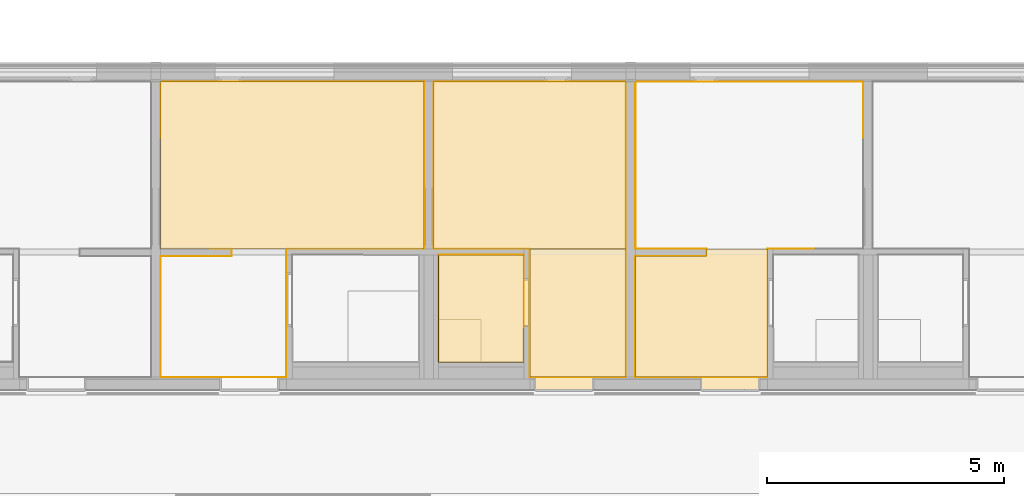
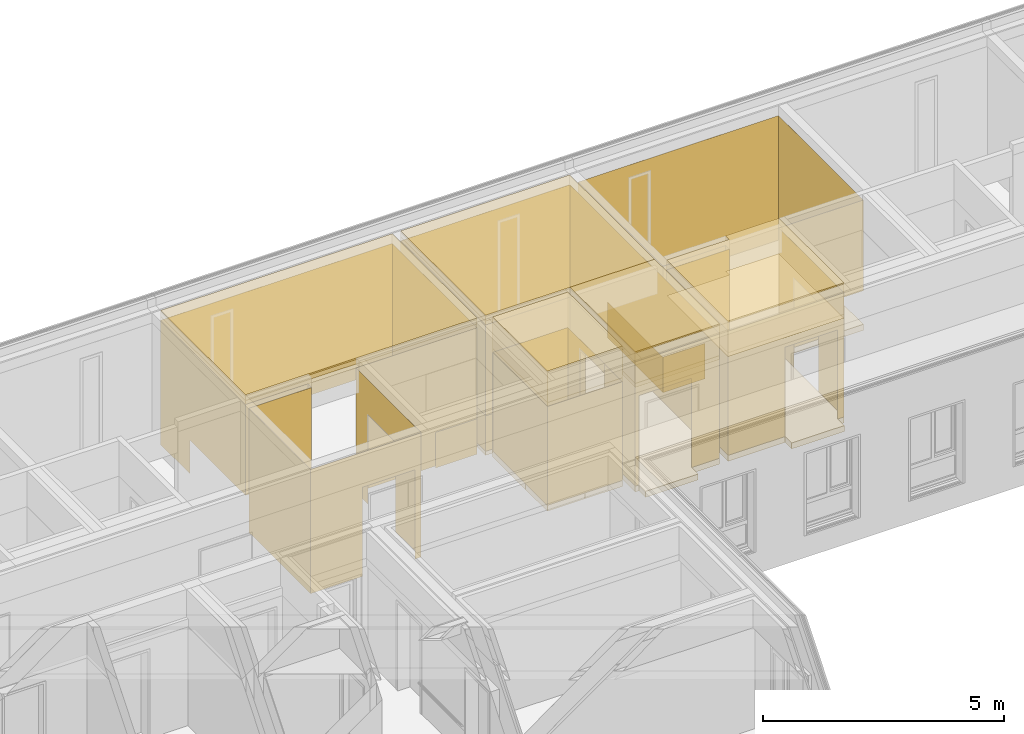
# One storey, part 177 of 222: 31 coverings.
"""IFC4 building model written with IfcOpenShell, lengths in metres."""

from ifc_helpers import new_model, entity, si_unit, converted_unit, derived_unit, frame, frame_2d, origin, origin_with_axes, place, context, subcontext, project, spatial, polyline, rectangle, outline, extrude, material, layer, layer_set, layer_usage, element, save


model = new_model("IFC4")

# Units and contexts
model_context = context("Model", 3, precision=1e-05, world=origin())
body_context = subcontext(model_context, "Body", "Model", "MODEL_VIEW")
ifc_project = project(units=[si_unit("LENGTHUNIT", "METRE"), si_unit("AREAUNIT", "SQUARE_METRE"), si_unit("VOLUMEUNIT", "CUBIC_METRE"), si_unit("MASSUNIT", "GRAM", prefix="KILO"), converted_unit("PLANEANGLEUNIT", "DEGREE", entity("IfcPlaneAngleMeasure", 0.0174532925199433), si_unit("PLANEANGLEUNIT", "RADIAN"), dimensions=[0, 0, 0, 0, 0, 0, 0]), derived_unit("THERMALTRANSMITTANCEUNIT", [(si_unit("POWERUNIT", "WATT"), 1), (si_unit("THERMODYNAMICTEMPERATUREUNIT", "KELVIN"), -1), (si_unit("LENGTHUNIT", "METRE"), -2)]), derived_unit("VOLUMETRICFLOWRATEUNIT", [(si_unit("LENGTHUNIT", "METRE"), 3), (converted_unit("TIMEUNIT", "hour", entity("IfcTimeMeasure", 3600.0), si_unit("TIMEUNIT", "SECOND"), dimensions=[0, 0, 1, 0, 0, 0, 0]), -1), (si_unit("LENGTHUNIT", "METRE"), -1)])], contexts=[model_context])

# Site, building, storey, space
site_placement = place(None, origin())
site = spatial("IfcSite", under=ifc_project, at=site_placement, Name="Psychiatrie Neubau Wunstorf", CompositionType="ELEMENT")
building_placement = place(site_placement, origin())
building = spatial("IfcBuilding", under=site, at=building_placement, Name="Neubau H2 Stationsgebäude", CompositionType="ELEMENT")
storey_placement = place(building_placement, frame((0.0, 0.0, 3.6)))
storey = spatial("IfcBuildingStorey", under=building, at=storey_placement, Name="H2 Ebene +1", CompositionType="ELEMENT", Elevation=3.6)
space_1_placement = place(storey_placement, frame((20.1, 24.3895, 0.0)))
space_1 = spatial("IfcSpace", under=storey, at=space_1_placement, Name="WUN-H2-E01-045", CompositionType="ELEMENT")

# Coverings
ifc_material_1 = material(Name="84")
ifc_layer_1 = layer(ifc_material_1, 0.001)
ifc_layer_set_1 = layer_set([ifc_layer_1])
ifc_layer_usage_1 = layer_usage(ifc_layer_set_1, "AXIS3", "POSITIVE", 0.0)
covering_1_placement = place(space_1_placement, frame((0.0, 2.70000000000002, 0.1)))
element("IfcCovering", 1, at=covering_1_placement, inside=space_1, material=ifc_layer_usage_1, Name="Acrovyn", PredefinedType="CLADDING", context=body_context, shape_type="SweptSolid", body=[
    extrude(rectangle(XDim=0.9, YDim=1.0, at=frame_2d((-0.5, -0.45), x_axis=(0.0, -1.0))), frame((1.0, 0.0, 0.0), z_axis=(0.0, 1.0, 0.0), x_axis=(1.0, 0.0, 0.0)), (0.0, 0.0, 1.0), 0.001),
    extrude(rectangle(XDim=0.9, YDim=2.29650366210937, at=frame_2d((-1.14825183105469, -0.45), x_axis=(0.0, -1.0))), frame((0.0, 0.0, 0.0), z_axis=(1.0, 9.50482823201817e-15, 0.0), x_axis=(9.50482823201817e-15, -1.0, 0.0)), (0.0, 0.0, 1.0), 0.001),
])
ifc_material_2 = material()
ifc_layer_2 = layer(ifc_material_2, 0.036)
ifc_layer_set_2 = layer_set([ifc_layer_2])
ifc_layer_usage_2 = layer_usage(ifc_layer_set_2, "AXIS3", "POSITIVE", 0.0)
covering_2_placement = place(space_1_placement, frame((0.0, 0.0, 3.55)))
element("IfcCovering", 2, at=covering_2_placement, inside=space_1, material=ifc_layer_usage_2, Name="Gipsfaserplatten 2-lagig (BSK)", PredefinedType="CEILING", context=body_context, shape_type="SweptSolid", body=[
    extrude(outline(polyline([(0.0, 0.150000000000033), (1.50000000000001, 0.150000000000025), (1.50000000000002, 0.0), (2.77500000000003, 0.0), (2.77500000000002, 2.70000000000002), (0.0, 2.70000000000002), (0.0, 0.150000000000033)])), frame((0.0, 2.70000000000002, 0.0), z_axis=(0.0, 0.0, -1.0), x_axis=(1.0, 0.0, 0.0)), (0.0, 0.0, 1.0), 0.036),
])
ifc_material_3 = material(Name="Installationshöhe")
ifc_layer_3 = layer(ifc_material_3, 0.764)
ifc_layer_set_3 = layer_set([ifc_layer_3])
ifc_layer_usage_3 = layer_usage(ifc_layer_set_3, "AXIS3", "POSITIVE", 0.0)
covering_3_placement = place(space_1_placement, frame((0.0, 0.0, 3.514)))
element("IfcCovering", 3, at=covering_3_placement, inside=space_1, material=ifc_layer_usage_3, Name="Gipsfaserplatten 2-lagig (BSK)", PredefinedType="CEILING", context=body_context, shape_type="SweptSolid", body=[
    extrude(outline(polyline([(0.0, 0.150000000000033), (1.50000000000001, 0.150000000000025), (1.50000000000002, 0.0), (2.77500000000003, 0.0), (2.77500000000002, 2.70000000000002), (0.0, 2.70000000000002), (0.0, 0.150000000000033)])), frame((0.0, 2.70000000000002, 0.0), z_axis=(0.0, 0.0, -1.0), x_axis=(1.0, 0.0, 0.0)), (0.0, 0.0, 1.0), 0.764),
])
ifc_material_4 = material(Name="A1")
ifc_layer_4 = layer(ifc_material_4, 0.1)
ifc_layer_set_4 = layer_set([ifc_layer_4])
ifc_layer_usage_4 = layer_usage(ifc_layer_set_4, "AXIS3", "POSITIVE", 0.0)
covering_4_placement = place(space_1_placement, frame((0.0, 0.0, 2.75)))
element("IfcCovering", 4, at=covering_4_placement, inside=space_1, material=ifc_layer_usage_4, Name="Gipsfaserplatten 2-lagig (BSK)", PredefinedType="CEILING", context=body_context, shape_type="SweptSolid", body=[
    extrude(outline(polyline([(0.0, 0.150000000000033), (1.50000000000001, 0.150000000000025), (1.50000000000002, 0.0), (2.77500000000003, 0.0), (2.77500000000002, 2.70000000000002), (0.0, 2.70000000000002), (0.0, 0.150000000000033)])), frame((0.0, 2.70000000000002, 0.0), z_axis=(0.0, 0.0, -1.0), x_axis=(1.0, 0.0, 0.0)), (0.0, 0.0, 1.0), 0.1),
])
ifc_material_5 = material(Name="D1")
ifc_layer_5 = layer(ifc_material_5, 0.001)
ifc_layer_set_5 = layer_set([ifc_layer_5])
ifc_layer_usage_5 = layer_usage(ifc_layer_set_5, "AXIS3", "POSITIVE", 0.0)
covering_5_placement = place(space_1_placement, frame((0.0, 0.0, 2.65)))
element("IfcCovering", 5, at=covering_5_placement, inside=space_1, material=ifc_layer_usage_5, Name="Gipsfaserplatten 2-lagig (BSK)", PredefinedType="CEILING", context=body_context, shape_type="SweptSolid", body=[
    extrude(outline(polyline([(0.0, 0.150000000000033), (1.50000000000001, 0.150000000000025), (1.50000000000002, 0.0), (2.77500000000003, 0.0), (2.77500000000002, 2.70000000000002), (0.0, 2.70000000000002), (0.0, 0.150000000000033)])), frame((0.0, 2.70000000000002, 0.0), z_axis=(0.0, 0.0, -1.0), x_axis=(1.0, 0.0, 0.0)), (0.0, 0.0, 1.0), 0.001),
])
ifc_material_6 = material(Name="Ku1")
ifc_layer_6 = layer(ifc_material_6, 0.15)
ifc_layer_set_6 = layer_set([ifc_layer_6])
ifc_layer_usage_6 = layer_usage(ifc_layer_set_6, "AXIS3", "POSITIVE", 0.0)
covering_6_placement = place(space_1_placement, frame((0.0, -0.271999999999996, 0.0)))
element("IfcCovering", 6, at=covering_6_placement, inside=space_1, material=ifc_layer_usage_6, Name="PVC Bahnenware Holzoptik", PredefinedType="FLOORING", context=body_context, shape_type="SweptSolid", body=[
    extrude(rectangle(XDim=0.271999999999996, YDim=1.26, at=frame_2d((0.63, -0.135999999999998), x_axis=(0.0, -1.0))), frame((1.36500000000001, 0.272, 0.0), z_axis=(0.0, 0.0, 1.0), x_axis=(1.0, 0.0, 0.0)), (0.0, 0.0, 1.0), 0.15),
    extrude(outline(polyline([(1.50000000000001, 2.55), (0.0, 2.54999999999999), (0.0, 0.0), (2.77500000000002, 0.0), (2.77500000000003, 2.70000000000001), (4.80000000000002, 2.70000000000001), (4.8, 6.22100366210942), (0.0, 6.22100366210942), (0.0, 2.70000000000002), (1.50000000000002, 2.70000000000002), (1.50000000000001, 2.55)])), frame((0.0, 0.271999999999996, 0.0), z_axis=(0.0, 0.0, 1.0), x_axis=(1.0, 0.0, 0.0)), (0.0, 0.0, 1.0), 0.15),
])
ifc_material_7 = material(Name="49")
ifc_layer_7 = layer(ifc_material_7, 0.001)
ifc_layer_set_7 = layer_set([ifc_layer_7])
ifc_layer_usage_7 = layer_usage(ifc_layer_set_7, "AXIS3", "POSITIVE", 0.0)
covering_7_placement = place(space_1_placement, frame((0.0, 0.0, 0.15)))
element("IfcCovering", 7, at=covering_7_placement, inside=space_1, material=ifc_layer_usage_7, PredefinedType="CLADDING", context=body_context, shape_type="SweptSolid", body=[
    extrude(outline(polyline([(1.0, 3.15), (1.5, 3.15), (1.5, 0.0), (0.0, 0.0), (0.0, 2.3), (1.0, 2.3), (1.0, 3.15)])), frame((0.0, 2.70000000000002, 3.15), z_axis=(8.22696452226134e-16, 1.0, 3.77383693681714e-16), x_axis=(1.0, -8.22696452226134e-16, 0.0)), (0.0, 0.0, 1.0), 0.001),
    extrude(rectangle(XDim=0.150000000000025, YDim=3.15, at=frame_2d((0.0750000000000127, -1.575), x_axis=(1.0, 0.0))), frame((1.5, 2.70000000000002, 0.0), z_axis=(1.0, -9.70127681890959e-14, 0.0), x_axis=(-9.70127681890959e-14, -1.0, 0.0)), (0.0, 0.0, 1.0), 0.001),
    extrude(rectangle(XDim=1.50000000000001, YDim=3.15, at=frame_2d((0.750000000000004, -1.575), x_axis=(1.0, 0.0))), frame((1.49999999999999, 2.55, 0.0), z_axis=(4.85063840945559e-15, -1.0, 0.0), x_axis=(-1.0, -4.85063840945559e-15, 0.0)), (0.0, 0.0, 1.0), 0.001),
    extrude(rectangle(XDim=2.54999999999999, YDim=3.15, at=frame_2d((1.27499999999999, -1.575), x_axis=(1.0, 0.0))), frame((0.0, 2.54999999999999, 0.0), z_axis=(1.0, 7.13329177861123e-15, 0.0), x_axis=(7.13329177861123e-15, -1.0, 0.0)), (0.0, 0.0, 1.0), 0.001),
    extrude(outline(polyline([(0.0, 3.15), (1.36499999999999, 3.15), (1.365, 0.89), (2.625, 0.89), (2.625, 3.15), (2.775, 3.15), (2.775, 0.0), (0.0, 0.0), (0.0, 3.15)])), frame((0.0, 0.0, 3.15), z_axis=(8.18892110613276e-17, 1.0, 3.71261760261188e-16), x_axis=(1.0, -8.18892110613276e-17, 0.0)), (0.0, 0.0, 1.0), 0.001),
    extrude(outline(polyline([(0.0, 3.15), (1.06150366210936, 3.15), (1.06150366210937, 0.89), (2.07150366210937, 0.89), (2.07150366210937, 3.15), (2.70000000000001, 3.15), (2.70000000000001, 0.0), (0.0, 0.0), (0.0, 3.15)])), frame((2.775, 0.0, 3.15), z_axis=(-1.0, 1.13040367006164e-15, 4.31793671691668e-16), x_axis=(1.13040367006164e-15, 1.0, 0.0)), (0.0, 0.0, 1.0), 0.001),
    extrude(outline(polyline([(0.0, 3.15), (1.025, 3.15), (1.025, 2.3), (2.025, 2.3), (2.025, 0.0), (0.0, 0.0), (0.0, 3.15)])), frame((2.775, 2.7, 3.15), z_axis=(-1.97403326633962e-16, 1.0, -3.29005544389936e-16), x_axis=(1.0, 1.97403326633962e-16, 0.0)), (0.0, 0.0, 1.0), 0.001),
    extrude(outline(polyline([(2.29650366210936, 3.15), (3.52100366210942, 3.15), (3.52100366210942, 0.0), (0.0, 0.0), (0.0, 2.3), (2.29650366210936, 2.3), (2.29650366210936, 3.15)])), frame((4.8, 2.7, 3.15), z_axis=(-1.0, -5.80782572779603e-15, 7.37005637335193e-16), x_axis=(-5.80782572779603e-15, 1.0, 0.0)), (0.0, 0.0, 1.0), 0.001),
    extrude(rectangle(XDim=4.8, YDim=3.15, at=frame_2d((2.4, -1.575), x_axis=(1.0, 0.0))), frame((4.79999999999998, 6.22100366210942, 0.0), z_axis=(0.0, -1.0, 0.0), x_axis=(-1.0, 0.0, 0.0)), (0.0, 0.0, 1.0), 0.001),
    extrude(outline(polyline([(0.0, 3.15), (1.22450000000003, 3.15), (1.22450000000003, 2.3), (3.5210036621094, 2.3), (3.5210036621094, 0.0), (0.0, 0.0), (0.0, 3.15)])), frame((0.0, 6.22100366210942, 3.15), z_axis=(1.0, 6.67145487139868e-15, -6.68171912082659e-16), x_axis=(6.67145487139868e-15, -1.0, 0.0)), (0.0, 0.0, 1.0), 0.001),
])

# Space
space_2_placement = place(storey_placement, frame((15.85, 24.3895, 0.0)))
space_2 = spatial("IfcSpace", under=storey, at=space_2_placement, Name="WUN-H2-E01-044", CompositionType="ELEMENT")

# Coverings
ifc_material_8 = material(Name="84")
ifc_layer_8 = layer(ifc_material_8, 0.001)
ifc_layer_set_8 = layer_set([ifc_layer_8])
ifc_layer_usage_8 = layer_usage(ifc_layer_set_8, "AXIS3", "POSITIVE", 0.0)
covering_8_placement = place(space_2_placement, frame((0.0, 2.70000000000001, 0.1)))
element("IfcCovering", 8, at=covering_8_placement, inside=space_2, material=ifc_layer_usage_8, Name="Acrovyn", PredefinedType="CLADDING", context=body_context, shape_type="SweptSolid", body=[
    extrude(rectangle(XDim=0.9, YDim=1.0, at=frame_2d((-0.5, -0.45), x_axis=(0.0, -1.0))), frame((1.0, 0.0, 0.0), z_axis=(0.0, 1.0, 0.0), x_axis=(1.0, 0.0, 0.0)), (0.0, 0.0, 1.0), 0.001),
    extrude(rectangle(XDim=0.9, YDim=2.29650366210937, at=frame_2d((-1.14825183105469, -0.45), x_axis=(0.0, -1.0))), frame((0.0, 0.0, 0.0), z_axis=(1.0, 9.50482823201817e-15, 0.0), x_axis=(9.50482823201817e-15, -1.0, 0.0)), (0.0, 0.0, 1.0), 0.001),
])
ifc_material_9 = material()
ifc_layer_9 = layer(ifc_material_9, 0.036)
ifc_layer_set_9 = layer_set([ifc_layer_9])
ifc_layer_usage_9 = layer_usage(ifc_layer_set_9, "AXIS3", "POSITIVE", 0.0)
covering_9_placement = place(space_2_placement, frame((2.02500000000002, 0.0, 3.55)))
element("IfcCovering", 9, at=covering_9_placement, inside=space_2, material=ifc_layer_usage_9, Name="Gipsfaserplatten 2-lagig (BSK)", PredefinedType="CEILING", context=body_context, shape_type="SweptSolid", body=[
    extrude(rectangle(XDim=2.70000000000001, YDim=2.025, at=frame_2d((1.0125, -1.35), x_axis=(0.0, -1.0))), frame((0.0, 0.0, 0.0), z_axis=(0.0, 0.0, -1.0), x_axis=(1.0, 0.0, 0.0)), (0.0, 0.0, 1.0), 0.036),
])
ifc_material_10 = material(Name="Installationshöhe")
ifc_layer_10 = layer(ifc_material_10, 0.764)
ifc_layer_set_10 = layer_set([ifc_layer_10])
ifc_layer_usage_10 = layer_usage(ifc_layer_set_10, "AXIS3", "POSITIVE", 0.0)
covering_10_placement = place(space_2_placement, frame((2.02500000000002, 0.0, 3.514)))
element("IfcCovering", 10, at=covering_10_placement, inside=space_2, material=ifc_layer_usage_10, Name="Gipsfaserplatten 2-lagig (BSK)", PredefinedType="CEILING", context=body_context, shape_type="SweptSolid", body=[
    extrude(rectangle(XDim=2.70000000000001, YDim=2.025, at=frame_2d((1.0125, -1.35), x_axis=(0.0, -1.0))), frame((0.0, 0.0, 0.0), z_axis=(0.0, 0.0, -1.0), x_axis=(1.0, 0.0, 0.0)), (0.0, 0.0, 1.0), 0.764),
])
ifc_material_11 = material(Name="A1")
ifc_layer_11 = layer(ifc_material_11, 0.1)
ifc_layer_set_11 = layer_set([ifc_layer_11])
ifc_layer_usage_11 = layer_usage(ifc_layer_set_11, "AXIS3", "POSITIVE", 0.0)
covering_11_placement = place(space_2_placement, frame((2.02500000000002, 0.0, 2.75)))
element("IfcCovering", 11, at=covering_11_placement, inside=space_2, material=ifc_layer_usage_11, Name="Gipsfaserplatten 2-lagig (BSK)", PredefinedType="CEILING", context=body_context, shape_type="SweptSolid", body=[
    extrude(rectangle(XDim=2.70000000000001, YDim=2.025, at=frame_2d((1.0125, -1.35), x_axis=(0.0, -1.0))), frame((0.0, 0.0, 0.0), z_axis=(0.0, 0.0, -1.0), x_axis=(1.0, 0.0, 0.0)), (0.0, 0.0, 1.0), 0.1),
])
ifc_material_12 = material(Name="D1")
ifc_layer_12 = layer(ifc_material_12, 0.001)
ifc_layer_set_12 = layer_set([ifc_layer_12])
ifc_layer_usage_12 = layer_usage(ifc_layer_set_12, "AXIS3", "POSITIVE", 0.0)
covering_12_placement = place(space_2_placement, frame((2.02500000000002, 0.0, 2.65)))
element("IfcCovering", 12, at=covering_12_placement, inside=space_2, material=ifc_layer_usage_12, Name="Gipsfaserplatten 2-lagig (BSK)", PredefinedType="CEILING", context=body_context, shape_type="SweptSolid", body=[
    extrude(rectangle(XDim=2.70000000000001, YDim=2.025, at=frame_2d((1.0125, -1.35), x_axis=(0.0, -1.0))), frame((0.0, 0.0, 0.0), z_axis=(0.0, 0.0, -1.0), x_axis=(1.0, 0.0, 0.0)), (0.0, 0.0, 1.0), 0.001),
])
ifc_material_13 = material(Name="Ku1")
ifc_layer_13 = layer(ifc_material_13, 0.15)
ifc_layer_set_13 = layer_set([ifc_layer_13])
ifc_layer_usage_13 = layer_usage(ifc_layer_set_13, "AXIS3", "POSITIVE", 0.0)
covering_13_placement = place(space_2_placement, frame((0.0, -0.271999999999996, 0.0)))
element("IfcCovering", 13, at=covering_13_placement, inside=space_2, material=ifc_layer_usage_13, Name="PVC Bahnenware Holzoptik", PredefinedType="FLOORING", context=body_context, shape_type="SweptSolid", body=[
    extrude(rectangle(XDim=0.271999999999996, YDim=1.26, at=frame_2d((0.63, -0.135999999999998), x_axis=(0.0, -1.0))), frame((2.11500000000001, 0.272, 0.0), z_axis=(0.0, 0.0, 1.0), x_axis=(1.0, 0.0, 0.0)), (0.0, 0.0, 1.0), 0.15),
    extrude(outline(polyline([(2.02500000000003, 0.0), (4.05000000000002, 0.0), (4.05000000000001, 6.22100366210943), (0.0, 6.22100366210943), (0.0, 2.70000000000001), (2.02500000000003, 2.70000000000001), (2.02500000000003, 0.0)])), frame((0.0, 0.271999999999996, 0.0), z_axis=(0.0, 0.0, 1.0), x_axis=(1.0, 0.0, 0.0)), (0.0, 0.0, 1.0), 0.15),
])
ifc_material_14 = material()
ifc_layer_14 = layer(ifc_material_14, 0.036)
ifc_layer_set_14 = layer_set([ifc_layer_14])
ifc_layer_usage_14 = layer_usage(ifc_layer_set_14, "AXIS3", "POSITIVE", 0.0)
covering_14_placement = place(space_2_placement, frame((0.0, 2.70000000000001, 3.55)))
element("IfcCovering", 14, at=covering_14_placement, inside=space_2, material=ifc_layer_usage_14, Name="Gipsfaserplatten 2-lagig (BSK)", PredefinedType="CEILING", context=body_context, shape_type="SweptSolid", body=[
    extrude(rectangle(XDim=4.04999999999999, YDim=3.52100366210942, at=frame_2d((-2.02500000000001, -1.76050183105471), x_axis=(-1.0, 0.0))), frame((4.05000000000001, 0.0, 0.0), z_axis=(0.0, 0.0, -1.0), x_axis=(1.0, 0.0, 0.0)), (0.0, 0.0, 1.0), 0.036),
])
ifc_material_15 = material(Name="Installationshöhe")
ifc_layer_15 = layer(ifc_material_15, 0.114)
ifc_layer_set_15 = layer_set([ifc_layer_15])
ifc_layer_usage_15 = layer_usage(ifc_layer_set_15, "AXIS3", "POSITIVE", 0.0)
covering_15_placement = place(space_2_placement, frame((0.0, 2.70000000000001, 3.514)))
element("IfcCovering", 15, at=covering_15_placement, inside=space_2, material=ifc_layer_usage_15, Name="Gipsfaserplatten 2-lagig (BSK)", PredefinedType="CEILING", context=body_context, shape_type="SweptSolid", body=[
    extrude(rectangle(XDim=4.04999999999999, YDim=3.52100366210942, at=frame_2d((-2.02500000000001, -1.76050183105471), x_axis=(-1.0, 0.0))), frame((4.05000000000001, 0.0, 0.0), z_axis=(0.0, 0.0, -1.0), x_axis=(1.0, 0.0, 0.0)), (0.0, 0.0, 1.0), 0.114),
])
ifc_material_16 = material(Name="A1")
ifc_layer_16 = layer(ifc_material_16, 0.1)
ifc_layer_set_16 = layer_set([ifc_layer_16])
ifc_layer_usage_16 = layer_usage(ifc_layer_set_16, "AXIS3", "POSITIVE", 0.0)
covering_16_placement = place(space_2_placement, frame((0.0, 2.70000000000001, 3.4)))
element("IfcCovering", 16, at=covering_16_placement, inside=space_2, material=ifc_layer_usage_16, Name="Gipsfaserplatten 2-lagig (BSK)", PredefinedType="CEILING", context=body_context, shape_type="SweptSolid", body=[
    extrude(rectangle(XDim=4.04999999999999, YDim=3.52100366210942, at=frame_2d((-2.02500000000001, -1.76050183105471), x_axis=(-1.0, 0.0))), frame((4.05000000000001, 0.0, 0.0), z_axis=(0.0, 0.0, -1.0), x_axis=(1.0, 0.0, 0.0)), (0.0, 0.0, 1.0), 0.1),
])
ifc_material_17 = material(Name="49")
ifc_layer_17 = layer(ifc_material_17, 0.001)
ifc_layer_set_17 = layer_set([ifc_layer_17])
ifc_layer_usage_17 = layer_usage(ifc_layer_set_17, "AXIS3", "POSITIVE", 0.0)
covering_17_placement = place(space_2_placement, frame((0.0, 0.0, 0.15)))
element("IfcCovering", 17, at=covering_17_placement, inside=space_2, material=ifc_layer_usage_17, PredefinedType="CLADDING", context=body_context, shape_type="SweptSolid", body=[
    extrude(outline(polyline([(1.0, 3.15), (2.025, 3.15), (2.025, 0.0), (0.0, 0.0), (0.0, 2.3), (1.0, 2.3), (1.0, 3.15)])), frame((0.0, 2.70000000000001, 3.15), z_axis=(2.79654712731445e-16, 1.0, 3.37230682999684e-16), x_axis=(1.0, -2.79654712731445e-16, 0.0)), (0.0, 0.0, 1.0), 0.001),
    extrude(outline(polyline([(0.0, 3.15), (0.628496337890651, 3.15), (0.628496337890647, 0.89), (1.63849633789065, 0.89), (1.63849633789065, 3.15), (2.70000000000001, 3.15), (2.70000000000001, 0.0), (0.0, 0.0), (0.0, 3.15)])), frame((2.02500000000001, 2.70000000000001, 3.15), z_axis=(1.0, 0.0, 0.0), x_axis=(0.0, -1.0, 0.0)), (0.0, 0.0, 1.0), 0.001),
    extrude(outline(polyline([(0.0, 3.15), (0.0899999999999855, 3.15), (0.0899999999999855, 0.89), (1.34999999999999, 0.89), (1.34999999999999, 3.15), (2.02499999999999, 3.15), (2.02499999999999, 0.0), (0.0, 0.0), (0.0, 3.15)])), frame((2.02500000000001, 0.0, 3.15), z_axis=(0.0, 1.0, 0.0), x_axis=(1.0, 0.0, 0.0)), (0.0, 0.0, 1.0), 0.001),
    extrude(rectangle(XDim=6.22100366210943, YDim=3.15, at=frame_2d((3.11050183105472, -1.575), x_axis=(1.0, 0.0))), frame((4.04999999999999, 0.0, 0.0), z_axis=(-1.0, -5.84789690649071e-16, 0.0), x_axis=(-5.84789690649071e-16, 1.0, 0.0)), (0.0, 0.0, 1.0), 0.001),
    extrude(rectangle(XDim=4.05000000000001, YDim=3.15, at=frame_2d((2.02500000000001, -1.575), x_axis=(1.0, 0.0))), frame((4.04999999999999, 6.22100366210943, 0.0), z_axis=(0.0, -1.0, 0.0), x_axis=(-1.0, 0.0, 0.0)), (0.0, 0.0, 1.0), 0.001),
    extrude(outline(polyline([(0.0, 3.15), (1.22450000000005, 3.15), (1.22450000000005, 2.3), (3.52100366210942, 2.3), (3.52100366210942, 0.0), (0.0, 0.0), (0.0, 3.15)])), frame((0.0, 6.22100366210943, 3.15), z_axis=(1.0, 6.67145487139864e-15, -6.68171912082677e-16), x_axis=(6.67145487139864e-15, -1.0, 0.0)), (0.0, 0.0, 1.0), 0.001),
])

# Space
space_3_placement = place(storey_placement, frame((10.1, 24.3895, 0.0)))
space_3 = spatial("IfcSpace", under=storey, at=space_3_placement, Name="WUN-H2-E01-043", CompositionType="ELEMENT")

# Coverings
ifc_material_18 = material(Name="84")
ifc_layer_18 = layer(ifc_material_18, 0.001)
ifc_layer_set_18 = layer_set([ifc_layer_18])
ifc_layer_usage_18 = layer_usage(ifc_layer_set_18, "AXIS3", "POSITIVE", 0.0)
covering_18_placement = place(space_3_placement, frame((4.55000000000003, 2.69999999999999, 0.1)))
element("IfcCovering", 18, at=covering_18_placement, inside=space_3, material=ifc_layer_usage_18, Name="Acrovyn", PredefinedType="CLADDING", context=body_context, shape_type="SweptSolid", body=[
    extrude(rectangle(XDim=1.0, YDim=0.9, at=frame_2d((0.5, -0.45), x_axis=(1.0, 0.0))), frame((0.0, 0.0, 0.0), z_axis=(0.0, 1.0, 0.0), x_axis=(1.0, 0.0, 0.0)), (0.0, 0.0, 1.0), 0.001),
    extrude(rectangle(XDim=2.29650366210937, YDim=0.9, at=frame_2d((1.14825183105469, -0.45), x_axis=(1.0, 0.0))), frame((1.0, 0.0, 0.0), z_axis=(-1.0, -1.18810352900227e-14, 0.0), x_axis=(-1.18810352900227e-14, 1.0, 0.0)), (0.0, 0.0, 1.0), 0.001),
])
ifc_material_19 = material()
ifc_layer_19 = layer(ifc_material_19, 0.036)
ifc_layer_set_19 = layer_set([ifc_layer_19])
ifc_layer_usage_19 = layer_usage(ifc_layer_set_19, "AXIS3", "POSITIVE", 0.0)
covering_19_placement = place(space_3_placement, frame((0.0, 2.69999999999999, 3.55)))
element("IfcCovering", 19, at=covering_19_placement, inside=space_3, material=ifc_layer_usage_19, Name="Gipsfaserplatten 2-lagig (BSK)", PredefinedType="CEILING", context=body_context, shape_type="SweptSolid", body=[
    extrude(rectangle(XDim=3.52100366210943, YDim=5.55000000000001, at=frame_2d((2.77499999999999, -1.76050183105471), x_axis=(-7.74916576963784e-15, -1.0))), frame((0.0, 0.0, 0.0), z_axis=(0.0, 0.0, -1.0), x_axis=(1.0, 0.0, 0.0)), (0.0, 0.0, 1.0), 0.036),
])
ifc_material_20 = material(Name="Installationshöhe")
ifc_layer_20 = layer(ifc_material_20, 0.114)
ifc_layer_set_20 = layer_set([ifc_layer_20])
ifc_layer_usage_20 = layer_usage(ifc_layer_set_20, "AXIS3", "POSITIVE", 0.0)
covering_20_placement = place(space_3_placement, frame((0.0, 2.69999999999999, 3.514)))
element("IfcCovering", 20, at=covering_20_placement, inside=space_3, material=ifc_layer_usage_20, Name="Gipsfaserplatten 2-lagig (BSK)", PredefinedType="CEILING", context=body_context, shape_type="SweptSolid", body=[
    extrude(rectangle(XDim=3.52100366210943, YDim=5.55000000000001, at=frame_2d((2.77499999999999, -1.76050183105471), x_axis=(-7.74916576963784e-15, -1.0))), frame((0.0, 0.0, 0.0), z_axis=(0.0, 0.0, -1.0), x_axis=(1.0, 0.0, 0.0)), (0.0, 0.0, 1.0), 0.114),
])
ifc_material_21 = material(Name="A1")
ifc_layer_21 = layer(ifc_material_21, 0.1)
ifc_layer_set_21 = layer_set([ifc_layer_21])
ifc_layer_usage_21 = layer_usage(ifc_layer_set_21, "AXIS3", "POSITIVE", 0.0)
covering_21_placement = place(space_3_placement, frame((0.0, 2.69999999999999, 3.4)))
element("IfcCovering", 21, at=covering_21_placement, inside=space_3, material=ifc_layer_usage_21, Name="Gipsfaserplatten 2-lagig (BSK)", PredefinedType="CEILING", context=body_context, shape_type="SweptSolid", body=[
    extrude(rectangle(XDim=3.52100366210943, YDim=5.55000000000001, at=frame_2d((2.77499999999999, -1.76050183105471), x_axis=(-7.74916576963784e-15, -1.0))), frame((0.0, 0.0, 0.0), z_axis=(0.0, 0.0, -1.0), x_axis=(1.0, 0.0, 0.0)), (0.0, 0.0, 1.0), 0.1),
])
ifc_material_22 = material(Name="D1")
ifc_layer_22 = layer(ifc_material_22, 0.001)
ifc_layer_set_22 = layer_set([ifc_layer_22])
ifc_layer_usage_22 = layer_usage(ifc_layer_set_22, "AXIS3", "POSITIVE", 0.0)
covering_22_placement = place(space_3_placement, frame((0.0, 2.69999999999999, 3.3)))
element("IfcCovering", 22, at=covering_22_placement, inside=space_3, material=ifc_layer_usage_22, Name="Gipsfaserplatten 2-lagig (BSK)", PredefinedType="CEILING", context=body_context, shape_type="SweptSolid", body=[
    extrude(rectangle(XDim=3.52100366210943, YDim=5.55000000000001, at=frame_2d((2.77499999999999, -1.76050183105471), x_axis=(-7.74916576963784e-15, -1.0))), frame((0.0, 0.0, 0.0), z_axis=(0.0, 0.0, -1.0), x_axis=(1.0, 0.0, 0.0)), (0.0, 0.0, 1.0), 0.001),
])
ifc_material_23 = material(Name="49")
ifc_layer_23 = layer(ifc_material_23, 0.001)
ifc_layer_set_23 = layer_set([ifc_layer_23])
ifc_layer_usage_23 = layer_usage(ifc_layer_set_23, "AXIS3", "POSITIVE", 0.0)
covering_23_placement = place(space_3_placement, frame((0.0, 0.0, 0.15)))
element("IfcCovering", 23, at=covering_23_placement, inside=space_3, material=ifc_layer_usage_23, PredefinedType="CLADDING", context=body_context, shape_type="SweptSolid", body=[
    extrude(rectangle(XDim=0.150000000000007, YDim=3.15, at=frame_2d((0.0750000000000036, -1.575), x_axis=(1.0, 0.0))), frame((1.50000000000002, 2.69999999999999, 0.0), z_axis=(1.0, 0.0, 0.0), x_axis=(0.0, -1.0, 0.0)), (0.0, 0.0, 1.0), 0.001),
    extrude(rectangle(XDim=1.50000000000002, YDim=3.15, at=frame_2d((0.750000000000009, -1.575), x_axis=(1.0, 0.0))), frame((1.50000000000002, 2.54999999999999, 0.0), z_axis=(0.0, -1.0, 0.0), x_axis=(-1.0, 0.0, 0.0)), (0.0, 0.0, 1.0), 0.001),
    extrude(rectangle(XDim=2.54999999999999, YDim=3.15, at=frame_2d((1.27499999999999, -1.575), x_axis=(1.0, 0.0))), frame((0.0, 2.54999999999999, 0.0), z_axis=(1.0, -1.42665835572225e-14, 0.0), x_axis=(-1.42665835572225e-14, -1.0, 0.0)), (0.0, 0.0, 1.0), 0.001),
    extrude(outline(polyline([(0.0, 3.15), (1.24000000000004, 3.15), (1.24000000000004, 0.89), (2.50000000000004, 0.89), (2.50000000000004, 3.15), (2.65000000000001, 3.15), (2.65000000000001, 0.0), (0.0, 0.0), (0.0, 3.15)])), frame((0.0, 0.0, 3.15), z_axis=(0.0, 1.0, 4.82970966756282e-16), x_axis=(1.0, 0.0, 0.0)), (0.0, 0.0, 1.0), 0.001),
    extrude(outline(polyline([(0.0, 3.15), (1.06499999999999, 3.15), (1.06499999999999, 0.89), (2.19999999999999, 0.89), (2.19999999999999, 3.15), (2.69999999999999, 3.15), (2.69999999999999, 0.0), (0.0, 0.0), (0.0, 3.15)])), frame((2.64999999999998, 0.0, 3.15), z_axis=(-1.0, 8.71673459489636e-15, 1.05638601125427e-16), x_axis=(8.71673459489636e-15, 1.0, 0.0)), (0.0, 0.0, 1.0), 0.001),
    extrude(outline(polyline([(0.0, 3.15), (1.89999999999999, 3.15), (1.89999999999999, 2.3), (2.9, 2.3), (2.89999999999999, 0.0), (0.0, 0.0), (0.0, 3.15)])), frame((2.65, 2.69999999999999, 3.15), z_axis=(3.73238622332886e-16, 1.0, -4.39104261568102e-16), x_axis=(1.0, -3.73238622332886e-16, 0.0)), (0.0, 0.0, 1.0), 0.001),
    extrude(outline(polyline([(2.29650366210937, 3.15), (3.52100366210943, 3.15), (3.52100366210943, 0.0), (0.0, 0.0), (0.0, 2.3), (2.29650366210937, 2.3), (2.29650366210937, 3.15)])), frame((5.55, 2.69999999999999, 3.15), z_axis=(-1.0, -6.8223491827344e-15, 9.38465477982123e-16), x_axis=(-6.8223491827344e-15, 1.0, 0.0)), (0.0, 0.0, 1.0), 0.001),
    extrude(rectangle(XDim=5.55000000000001, YDim=3.15, at=frame_2d((2.77500000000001, -1.575), x_axis=(1.0, 0.0))), frame((5.54999999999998, 6.22100366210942, 0.0), z_axis=(0.0, -1.0, 0.0), x_axis=(-1.0, 0.0, 0.0)), (0.0, 0.0, 1.0), 0.001),
    extrude(outline(polyline([(0.0, 3.15), (1.22450000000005, 3.15), (1.22450000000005, 2.3), (3.52100366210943, 2.3), (3.52100366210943, 0.0), (0.0, 0.0), (0.0, 3.15)])), frame((0.0, 6.22100366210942, 3.15), z_axis=(1.0, 8.50305496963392e-15, -8.35214890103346e-16), x_axis=(8.50305496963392e-15, -1.0, 0.0)), (0.0, 0.0, 1.0), 0.001),
    extrude(outline(polyline([(1.0, 3.15), (1.50000000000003, 3.15), (1.50000000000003, 0.0), (0.0, 0.0), (0.0, 2.3), (1.0, 2.3), (1.0, 3.15)])), frame((0.0, 2.69999999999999, 3.15), z_axis=(0.0, 1.0, 0.0), x_axis=(1.0, 0.0, 0.0)), (0.0, 0.0, 1.0), 0.001),
])

# Space
space_4_placement = place(storey_placement, frame((15.95, 24.6995, 0.0)))
space_4 = spatial("IfcSpace", under=storey, at=space_4_placement, Name="WUN-H2-E01-044a", CompositionType="ELEMENT")

# Coverings
ifc_material_24 = material(Name="Fl2")
ifc_layer_24 = layer(ifc_material_24, 0.15)
ifc_layer_set_24 = layer_set([ifc_layer_24])
ifc_layer_usage_24 = layer_usage(ifc_layer_set_24, "AXIS3", "POSITIVE", 0.0)
covering_24_placement = place(space_4_placement, origin())
element("IfcCovering", 24, at=covering_24_placement, inside=space_4, material=ifc_layer_usage_24, Name="Fliesen Mosaik", PredefinedType="FLOORING", context=body_context, shape_type="SweptSolid", body=[
    extrude(rectangle(XDim=0.9, YDim=0.9, at=frame_2d((0.45, 0.45), x_axis=(1.0, 0.0))), origin_with_axes(), (0.0, 0.0, 1.0), 0.15),
])
ifc_material_25 = material(Name="Fl1")
ifc_layer_25 = layer(ifc_material_25, 0.15)
ifc_layer_set_25 = layer_set([ifc_layer_25])
ifc_layer_usage_25 = layer_usage(ifc_layer_set_25, "AXIS3", "POSITIVE", 0.0)
covering_25_placement = place(space_4_placement, origin())
element("IfcCovering", 25, at=covering_25_placement, inside=space_4, material=ifc_layer_usage_25, Name="Fliesen", PredefinedType="FLOORING", context=body_context, shape_type="SweptSolid", body=[
    extrude(rectangle(XDim=0.125, YDim=1.01, at=frame_2d((-0.0625, -0.505), x_axis=(-1.0, 0.0))), frame((1.925, 1.76150366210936, 0.0), z_axis=(0.0, 0.0, 1.0), x_axis=(1.0, 0.0, 0.0)), (0.0, 0.0, 1.0), 0.15),
    extrude(outline(polyline([(0.9, 0.0), (1.80000000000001, 0.0), (1.80000000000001, 2.265), (0.0, 2.265), (0.0, 0.9), (0.9, 0.9), (0.9, 0.0)])), origin_with_axes(), (0.0, 0.0, 1.0), 0.15),
])
ifc_material_26 = material()
ifc_layer_26 = layer(ifc_material_26, 0.036)
ifc_layer_set_26 = layer_set([ifc_layer_26])
ifc_layer_usage_26 = layer_usage(ifc_layer_set_26, "AXIS3", "POSITIVE", 0.0)
covering_26_placement = place(space_4_placement, frame((0.0, 0.0, 3.55)))
element("IfcCovering", 26, at=covering_26_placement, inside=space_4, material=ifc_layer_usage_26, Name="Gipsfaserplatten 2-lagig (BSK)", PredefinedType="CEILING", context=body_context, shape_type="SweptSolid", body=[
    extrude(rectangle(XDim=1.80000000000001, YDim=2.265, at=frame_2d((0.900000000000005, 1.1325), x_axis=(1.0, 0.0))), frame((0.0, 2.265, 0.0), z_axis=(0.0, 0.0, -1.0), x_axis=(1.0, 0.0, 0.0)), (0.0, 0.0, 1.0), 0.036),
])
ifc_material_27 = material(Name="Installationshöhe")
ifc_layer_27 = layer(ifc_material_27, 0.764)
ifc_layer_set_27 = layer_set([ifc_layer_27])
ifc_layer_usage_27 = layer_usage(ifc_layer_set_27, "AXIS3", "POSITIVE", 0.0)
covering_27_placement = place(space_4_placement, frame((0.0, 0.0, 3.514)))
element("IfcCovering", 27, at=covering_27_placement, inside=space_4, material=ifc_layer_usage_27, Name="Gipsfaserplatten 2-lagig (BSK)", PredefinedType="CEILING", context=body_context, shape_type="SweptSolid", body=[
    extrude(rectangle(XDim=1.80000000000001, YDim=2.265, at=frame_2d((0.900000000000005, 1.1325), x_axis=(1.0, 0.0))), frame((0.0, 2.265, 0.0), z_axis=(0.0, 0.0, -1.0), x_axis=(1.0, 0.0, 0.0)), (0.0, 0.0, 1.0), 0.764),
])
ifc_material_28 = material(Name="B")
ifc_layer_28 = layer(ifc_material_28, 0.1)
ifc_layer_set_28 = layer_set([ifc_layer_28])
ifc_layer_usage_28 = layer_usage(ifc_layer_set_28, "AXIS3", "POSITIVE", 0.0)
covering_28_placement = place(space_4_placement, frame((0.0, 0.0, 2.75)))
element("IfcCovering", 28, at=covering_28_placement, inside=space_4, material=ifc_layer_usage_28, Name="Gipskarton, imprägniert", PredefinedType="CEILING", context=body_context, shape_type="SweptSolid", body=[
    extrude(rectangle(XDim=1.80000000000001, YDim=2.265, at=frame_2d((0.900000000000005, 1.1325), x_axis=(1.0, 0.0))), frame((0.0, 2.265, 0.0), z_axis=(0.0, 0.0, -1.0), x_axis=(1.0, 0.0, 0.0)), (0.0, 0.0, 1.0), 0.1),
])
ifc_material_29 = material(Name="D1")
ifc_layer_29 = layer(ifc_material_29, 0.001)
ifc_layer_set_29 = layer_set([ifc_layer_29])
ifc_layer_usage_29 = layer_usage(ifc_layer_set_29, "AXIS3", "POSITIVE", 0.0)
covering_29_placement = place(space_4_placement, frame((0.0, 0.0, 2.65)))
element("IfcCovering", 29, at=covering_29_placement, inside=space_4, material=ifc_layer_usage_29, Name="Gipsfaserplatten 2-lagig (BSK)", PredefinedType="CEILING", context=body_context, shape_type="SweptSolid", body=[
    extrude(rectangle(XDim=1.80000000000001, YDim=2.265, at=frame_2d((0.900000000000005, 1.1325), x_axis=(1.0, 0.0))), frame((0.0, 2.265, 0.0), z_axis=(0.0, 0.0, -1.0), x_axis=(1.0, 0.0, 0.0)), (0.0, 0.0, 1.0), 0.001),
])
ifc_material_30 = material(Name="50")
ifc_layer_30 = layer(ifc_material_30, 0.001)
ifc_layer_set_30 = layer_set([ifc_layer_30])
ifc_layer_usage_30 = layer_usage(ifc_layer_set_30, "AXIS3", "POSITIVE", 0.0)
covering_30_placement = place(space_4_placement, frame((0.0, 0.736503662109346, 0.15)))
element("IfcCovering", 30, at=covering_30_placement, inside=space_4, material=ifc_layer_usage_30, PredefinedType="CLADDING", context=body_context, shape_type="SweptSolid", body=[
    extrude(outline(polyline([(0.0, 2.5), (0.0150000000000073, 2.5), (0.0150000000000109, 0.24), (1.02500000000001, 0.24), (1.02500000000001, 2.5), (1.52849633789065, 2.5), (1.52849633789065, 0.0), (0.0, 0.0), (0.0, 2.5)])), frame((1.80000000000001, 0.0, 2.5), z_axis=(-1.0, 0.0, -1.49914440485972e-15), x_axis=(0.0, 1.0, 0.0)), (0.0, 0.0, 1.0), 0.001),
    extrude(rectangle(XDim=1.80000000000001, YDim=2.5, at=frame_2d((0.900000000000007, -1.25), x_axis=(1.0, 0.0))), frame((1.80000000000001, 1.52849633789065, 0.0), z_axis=(0.0, -1.0, 0.0), x_axis=(-1.0, 0.0, 0.0)), (0.0, 0.0, 1.0), 0.001),
])
ifc_material_31 = material(Name="68")
ifc_layer_31 = layer(ifc_material_31, 0.01)
ifc_layer_set_31 = layer_set([ifc_layer_31])
ifc_layer_usage_31 = layer_usage(ifc_layer_set_31, "AXIS3", "POSITIVE", 0.0)
covering_31_placement = place(space_4_placement, frame((0.0, 0.0, 0.15)))
element("IfcCovering", 31, at=covering_31_placement, inside=space_4, material=ifc_layer_usage_31, Name="a-sh Wandbelag", PredefinedType="CLADDING", context=body_context, shape_type="SweptSolid", body=[
    extrude(rectangle(XDim=2.26499999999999, YDim=2.5, at=frame_2d((1.13249999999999, -1.25), x_axis=(1.0, 0.0))), frame((0.0, 2.26499999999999, 0.0), z_axis=(1.0, 0.0, 0.0), x_axis=(0.0, -1.0, 0.0)), (0.0, 0.0, 1.0), 0.01),
    extrude(rectangle(XDim=0.736503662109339, YDim=2.5, at=frame_2d((0.368251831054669, -1.25), x_axis=(1.0, 0.0))), frame((1.8, 0.0, 0.0), z_axis=(-1.0, -4.93952575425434e-15, 0.0), x_axis=(-4.93952575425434e-15, 1.0, 0.0)), (0.0, 0.0, 1.0), 0.01),
    extrude(rectangle(XDim=1.8, YDim=2.5, at=frame_2d((0.9, -1.25), x_axis=(1.0, 0.0))), frame((0.0, 0.0, 0.0), z_axis=(0.0, 1.0, 0.0), x_axis=(1.0, 0.0, 0.0)), (0.0, 0.0, 1.0), 0.01),
])

save(model, "model.ifc")
